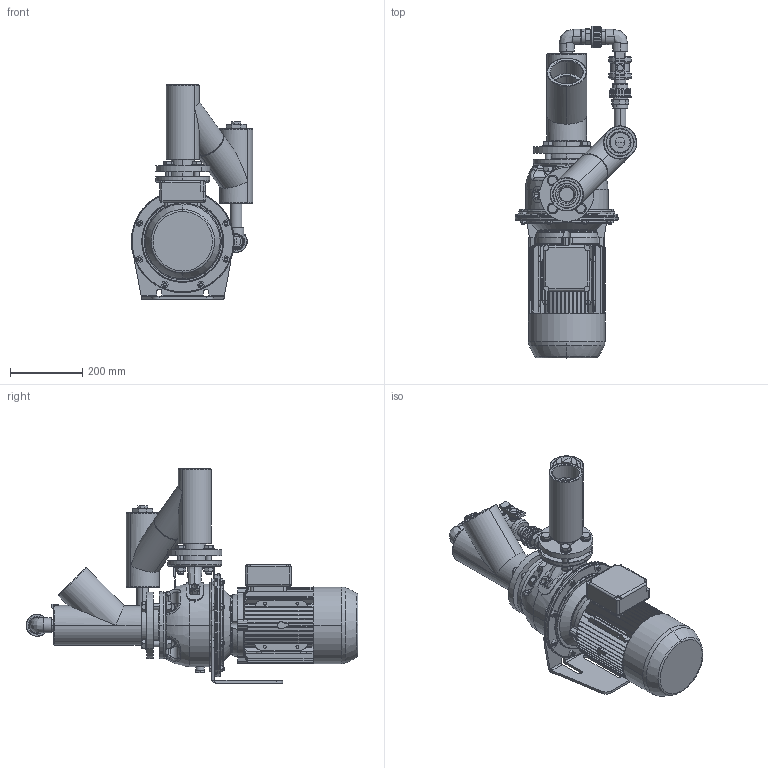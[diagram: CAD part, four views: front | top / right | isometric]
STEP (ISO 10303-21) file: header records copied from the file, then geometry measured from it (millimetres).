
FILE_DESCRIPTION (( 'STEP AP203' ), '1' );
FILE_NAME ('Lowara SHE 40-200 z.a.z handbed. by-pass.STEP', '2011-04-06T11:50:35', ( '' ), ( '' ), 'SwSTEP 2.0', 'SolidWorks 2010', '' );
FILE_SCHEMA (( 'CONFIG_CONTROL_DESIGN' ));
Products named in the file (1): Lowara SHE 40-200 z.a.z handbed. by-pass
Bounding box: 336.4 x 920.4 x 593.48 mm (x, y, z)
Volume: 24192709.2 mm3; surface area: 2590998.4 mm2
Topology: 64 solids, 66 shells, 2917 faces, 7371 edges, 4609 vertices
Faces by surface type: plane 1127, cylinder 897, cone 481, bspline 388, torus 24
Entity records: 122322 total; most frequent: CARTESIAN_POINT 56261, ORIENTED_EDGE 14532, DIRECTION 12788, EDGE_CURVE 7266, AXIS2_PLACEMENT_3D 5003, VERTEX_POINT 4609, EDGE_LOOP 3215, FACE_OUTER_BOUND 2917
